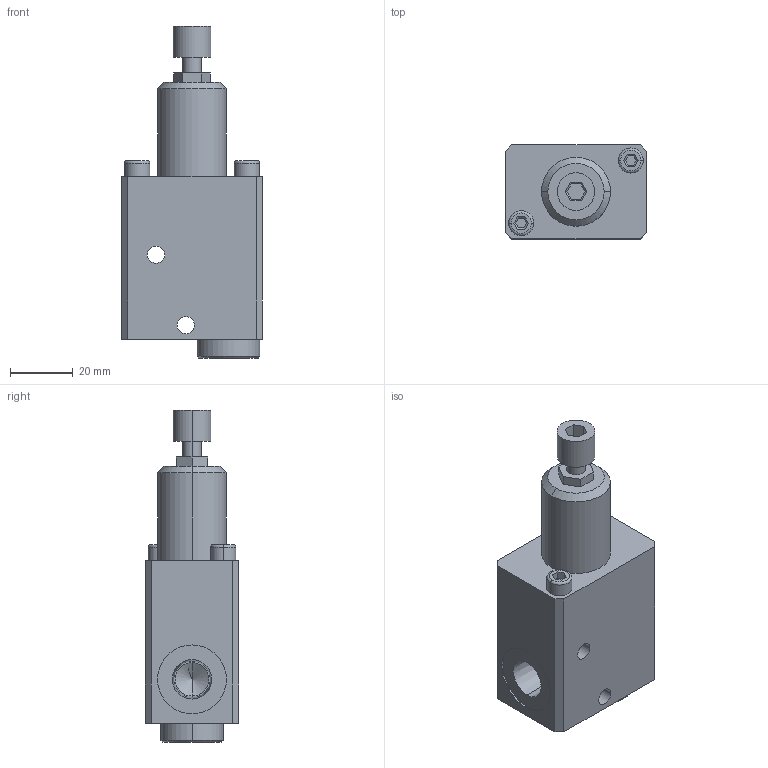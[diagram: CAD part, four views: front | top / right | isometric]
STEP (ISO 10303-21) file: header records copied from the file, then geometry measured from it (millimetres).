
FILE_DESCRIPTION (( 'STEP AP203' ), '1' );
FILE_NAME ('5311 111.STEP', '2016-01-29T10:36:19', ( '' ), ( '' ), 'SwSTEP 2.0', 'SolidWorks 2015', '' );
FILE_SCHEMA (( 'CONFIG_CONTROL_DESIGN' ));
Length unit declared in the file: millimetre
Products named in the file (1): 5311 111
Bounding box: 45 x 30 x 106 mm (x, y, z)
Volume: 75323.7 mm3; surface area: 17716 mm2
Topology: 2 solids, 2 shells, 124 faces, 289 edges, 180 vertices
Faces by surface type: plane 76, cylinder 28, cone 16, torus 4
Entity records: 3598 total; most frequent: CARTESIAN_POINT 650, DIRECTION 607, ORIENTED_EDGE 570, EDGE_CURVE 285, AXIS2_PLACEMENT_3D 205, VECTOR 197, LINE 197, VERTEX_POINT 180
